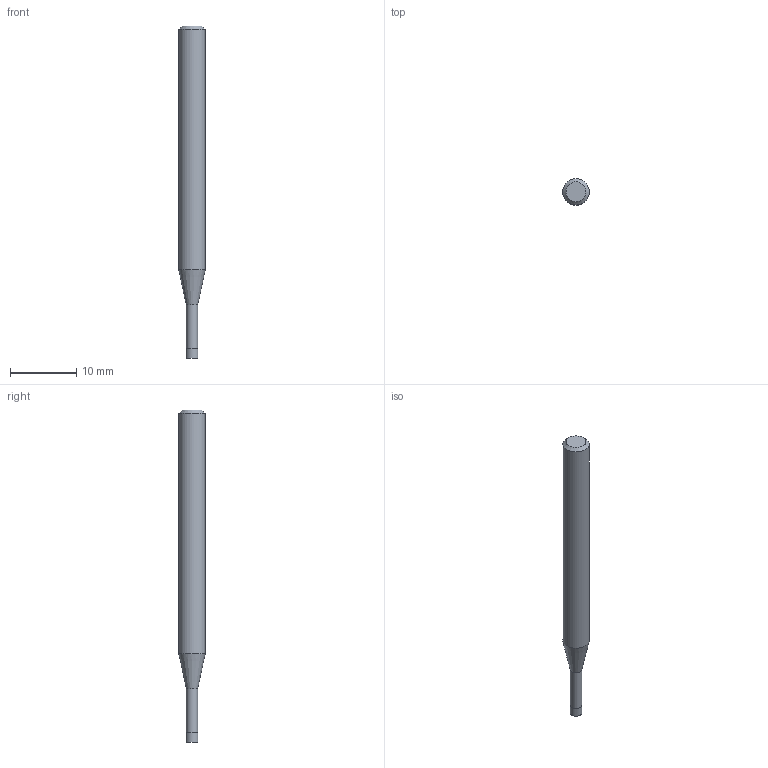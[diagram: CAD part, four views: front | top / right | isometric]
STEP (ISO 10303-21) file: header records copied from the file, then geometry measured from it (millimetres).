
FILE_DESCRIPTION((''),'2;1');
FILE_NAME('C:\Users\nsx150\AppData\Local\Temp\Mastercam 2021\3SYKECWX22\TEMP.step','2021-04-22T09:39:08',(''),(''),'STEP Write','Mastercam 2021 ... CNC Software, Inc.','');
FILE_SCHEMA(('AUTOMOTIVE_DESIGN'));
Length unit declared in the file: millimetre
Products named in the file (1): None
Bounding box: 4 x 4 x 50 mm (x, y, z)
Volume: 515 mm3; surface area: 570 mm2
Topology: 2 solids, 2 shells, 9 faces, 12 edges, 7 vertices
Faces by surface type: plane 4, cylinder 3, cone 2
Full cylindrical faces by diameter (mm): 1.74 x1, 1.8 x1, 4 x1
Entity records: 211 total; most frequent: DIRECTION 36, CARTESIAN_POINT 25, AXIS2_PLACEMENT_3D 18, ORIENTED_EDGE 14, EDGE_LOOP 14, STYLED_ITEM 12, ADVANCED_FACE 9, FACE_BOUND 8
